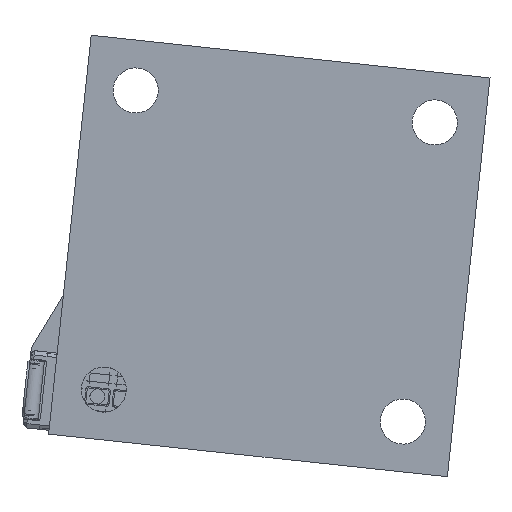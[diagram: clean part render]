
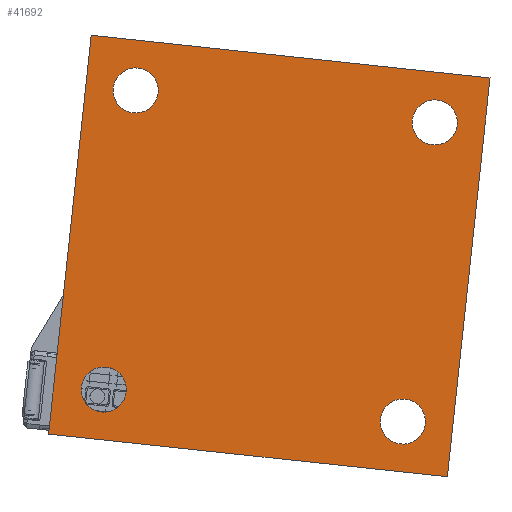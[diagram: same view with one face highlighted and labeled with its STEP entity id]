
A CAD part, left-side view. The second image highlights one B-rep face of the part: STEP entity #41692.
In plain terms, the highlighted planar face has unit normal (-1, 0, 0).
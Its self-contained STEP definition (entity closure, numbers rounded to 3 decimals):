
#2103=FACE_BOUND('',#6354,.T.);
#2104=FACE_BOUND('',#6355,.T.);
#2105=FACE_BOUND('',#6356,.T.);
#2106=FACE_BOUND('',#6357,.T.);
#4150=FACE_OUTER_BOUND('',#6353,.T.);
#6353=EDGE_LOOP('',(#36056,#36057,#36058,#36059));
#6354=EDGE_LOOP('',(#36060));
#6355=EDGE_LOOP('',(#36061));
#6356=EDGE_LOOP('',(#36062));
#6357=EDGE_LOOP('',(#36063));
#7672=CIRCLE('',#45188,9.);
#7673=CIRCLE('',#45190,9.);
#7674=CIRCLE('',#45192,9.);
#7675=CIRCLE('',#45194,9.);
#11256=LINE('',#82080,#14840);
#11259=LINE('',#82085,#14843);
#11261=LINE('',#82089,#14845);
#11263=LINE('',#82092,#14847);
#14840=VECTOR('',#55678,10.);
#14843=VECTOR('',#55683,10.);
#14845=VECTOR('',#55687,10.);
#14847=VECTOR('',#55691,10.);
#18634=VERTEX_POINT('',#82062);
#18635=VERTEX_POINT('',#82066);
#18636=VERTEX_POINT('',#82070);
#18637=VERTEX_POINT('',#82074);
#18638=VERTEX_POINT('',#82078);
#18639=VERTEX_POINT('',#82079);
#18640=VERTEX_POINT('',#82084);
#18641=VERTEX_POINT('',#82088);
#24471=EDGE_CURVE('',#18634,#18634,#7672,.T.);
#24473=EDGE_CURVE('',#18635,#18635,#7673,.T.);
#24475=EDGE_CURVE('',#18636,#18636,#7674,.T.);
#24477=EDGE_CURVE('',#18637,#18637,#7675,.T.);
#24478=EDGE_CURVE('',#18638,#18639,#11256,.T.);
#24481=EDGE_CURVE('',#18639,#18640,#11259,.T.);
#24483=EDGE_CURVE('',#18640,#18641,#11261,.T.);
#24485=EDGE_CURVE('',#18641,#18638,#11263,.T.);
#36056=ORIENTED_EDGE('',*,*,#24485,.T.);
#36057=ORIENTED_EDGE('',*,*,#24478,.T.);
#36058=ORIENTED_EDGE('',*,*,#24481,.T.);
#36059=ORIENTED_EDGE('',*,*,#24483,.T.);
#36060=ORIENTED_EDGE('',*,*,#24471,.T.);
#36061=ORIENTED_EDGE('',*,*,#24473,.T.);
#36062=ORIENTED_EDGE('',*,*,#24475,.T.);
#36063=ORIENTED_EDGE('',*,*,#24477,.T.);
#37526=PLANE('',#45199);
#41692=ADVANCED_FACE('',(#4150,#2103,#2104,#2105,#2106),#37526,.F.);
#45188=AXIS2_PLACEMENT_3D('',#82064,#55659,#55660);
#45190=AXIS2_PLACEMENT_3D('',#82068,#55664,#55665);
#45192=AXIS2_PLACEMENT_3D('',#82072,#55669,#55670);
#45194=AXIS2_PLACEMENT_3D('',#82076,#55674,#55675);
#45199=AXIS2_PLACEMENT_3D('',#82093,#55692,#55693);
#55659=DIRECTION('center_axis',(1.,0.,0.));
#55660=DIRECTION('ref_axis',(0.,0.106,-0.994));
#55664=DIRECTION('center_axis',(1.,0.,0.));
#55665=DIRECTION('ref_axis',(0.,0.106,-0.994));
#55669=DIRECTION('center_axis',(1.,0.,0.));
#55670=DIRECTION('ref_axis',(0.,0.106,-0.994));
#55674=DIRECTION('center_axis',(1.,0.,0.));
#55675=DIRECTION('ref_axis',(0.,0.106,-0.994));
#55678=DIRECTION('',(0.,-0.994,-0.106));
#55683=DIRECTION('',(0.,-0.106,0.994));
#55687=DIRECTION('',(0.,0.994,0.106));
#55691=DIRECTION('',(0.,0.106,-0.994));
#55692=DIRECTION('center_axis',(1.,0.,0.));
#55693=DIRECTION('ref_axis',(0.,0.106,-0.994));
#82062=CARTESIAN_POINT('',(-191.581,-52.926,-57.183));
#82064=CARTESIAN_POINT('Origin',(-191.581,-51.969,-66.132));
#82066=CARTESIAN_POINT('',(-191.581,53.639,74.893));
#82068=CARTESIAN_POINT('Origin',(-191.581,54.595,65.944));
#82070=CARTESIAN_POINT('',(-191.581,-65.682,62.137));
#82072=CARTESIAN_POINT('Origin',(-191.581,-64.725,53.188));
#82074=CARTESIAN_POINT('',(-191.581,66.394,-44.427));
#82076=CARTESIAN_POINT('Origin',(-191.581,67.351,-53.376));
#82078=CARTESIAN_POINT('',(-191.581,89.364,-71.137));
#82079=CARTESIAN_POINT('',(-191.581,-69.73,-88.145));
#82080=CARTESIAN_POINT('',(-191.581,89.364,-71.137));
#82084=CARTESIAN_POINT('',(-191.581,-86.738,70.949));
#82085=CARTESIAN_POINT('',(-191.581,-69.73,-88.145));
#82088=CARTESIAN_POINT('',(-191.581,72.356,87.956));
#82089=CARTESIAN_POINT('',(-191.581,-86.738,70.949));
#82092=CARTESIAN_POINT('',(-191.581,72.356,87.956));
#82093=CARTESIAN_POINT('Origin',(-191.581,1.313,-0.094));
